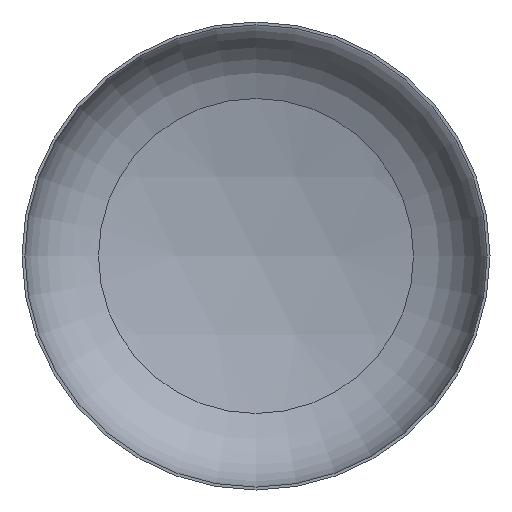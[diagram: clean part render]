
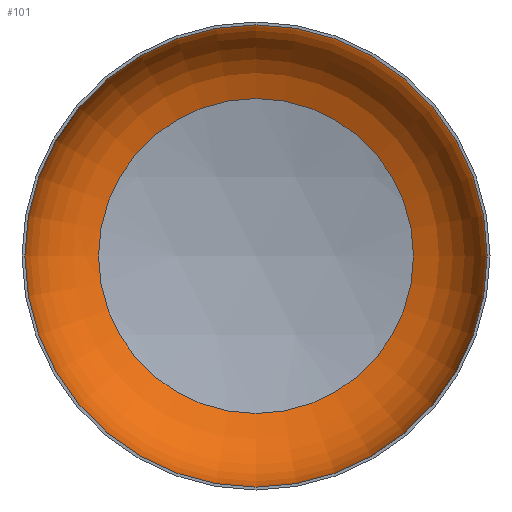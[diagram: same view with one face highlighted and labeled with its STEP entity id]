
A CAD part, front view. The second image highlights one B-rep face of the part: STEP entity #101.
In plain terms, the highlighted toroidal (fillet/blend) face has major radius 92.255 mm and minor radius 68.245 mm.
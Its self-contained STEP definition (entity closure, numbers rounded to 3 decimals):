
#4 = ORIENTED_EDGE ( 'NONE', *, *, #140, .F. ) ;
#8 = FACE_OUTER_BOUND ( 'NONE', #114, .T. ) ;
#11 = CARTESIAN_POINT ( 'NONE',  ( -160.5, 18., 0. ) ) ;
#14 = AXIS2_PLACEMENT_3D ( 'NONE', #69, #115, #16 ) ;
#16 = DIRECTION ( 'NONE',  ( -1., 0., 0. ) ) ;
#19 = FACE_OUTER_BOUND ( 'NONE', #156, .T. ) ;
#29 = EDGE_CURVE ( 'NONE', #49, #49, #89, .T. ) ;
#36 = AXIS2_PLACEMENT_3D ( 'NONE', #162, #110, #96 ) ;
#49 = VERTEX_POINT ( 'NONE', #98 ) ;
#64 = DIRECTION ( 'NONE',  ( 0., 1., 0. ) ) ;
#65 = CIRCLE ( 'NONE', #36, 160.5 ) ;
#69 = CARTESIAN_POINT ( 'NONE',  ( 0., 84.064, 0. ) ) ;
#79 = AXIS2_PLACEMENT_3D ( 'NONE', #86, #64, #137 ) ;
#86 = CARTESIAN_POINT ( 'NONE',  ( 0., 18., 0. ) ) ;
#89 = CIRCLE ( 'NONE', #14, 109.369 ) ;
#96 = DIRECTION ( 'NONE',  ( -1., 0., 0. ) ) ;
#98 = CARTESIAN_POINT ( 'NONE',  ( -109.369, 84.064, 0. ) ) ;
#101 = ADVANCED_FACE ( 'NONE', ( #19, #8 ), #151, .F. ) ;
#105 = ORIENTED_EDGE ( 'NONE', *, *, #29, .T. ) ;
#110 = DIRECTION ( 'NONE',  ( 0., 1., 0. ) ) ;
#114 = EDGE_LOOP ( 'NONE', ( #4 ) ) ;
#115 = DIRECTION ( 'NONE',  ( 0., 1., 0. ) ) ;
#137 = DIRECTION ( 'NONE',  ( -1., 0., 0. ) ) ;
#140 = EDGE_CURVE ( 'NONE', #164, #164, #65, .T. ) ;
#151 = TOROIDAL_SURFACE ( 'NONE', #79, 92.255, 68.245 ) ;
#156 = EDGE_LOOP ( 'NONE', ( #105 ) ) ;
#162 = CARTESIAN_POINT ( 'NONE',  ( 0., 18., 0. ) ) ;
#164 = VERTEX_POINT ( 'NONE', #11 ) ;
